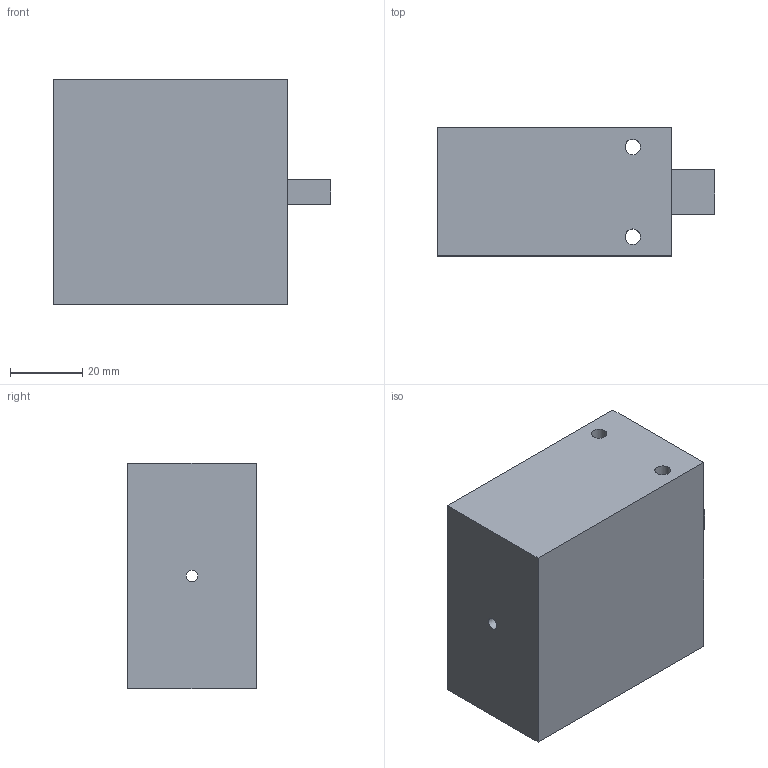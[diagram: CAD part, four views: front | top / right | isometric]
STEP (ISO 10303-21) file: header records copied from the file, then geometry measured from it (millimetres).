
FILE_DESCRIPTION(('Mechanical CAD reference from nasji.com'),'2;1');
FILE_NAME('NASJI.step','',(''),(''),'','NASJI distribution','');
FILE_SCHEMA(('AUTOMOTIVE_DESIGN { 1 0 10303 214 1 1 1 1 }'));
Length unit declared in the file: millimetre
Products named in the file (1): Open CASCADE STEP translator 7.8 169
Bounding box: 77 x 35.6 x 62.5 mm (x, y, z)
Volume: 143148.1 mm3; surface area: 20073.1 mm2
Topology: 1 solids, 1 shells, 14 faces, 33 edges, 22 vertices
Faces by surface type: plane 11, cylinder 3
Full cylindrical faces by diameter (mm): 3.3 x1, 4.3 x2
Entity records: 872 total; most frequent: CARTESIAN_POINT 172, DIRECTION 129, LINE 87, VECTOR 87, ORIENTED_EDGE 66, PCURVE 66, DEFINITIONAL_REPRESENTATION 66, EDGE_CURVE 33
